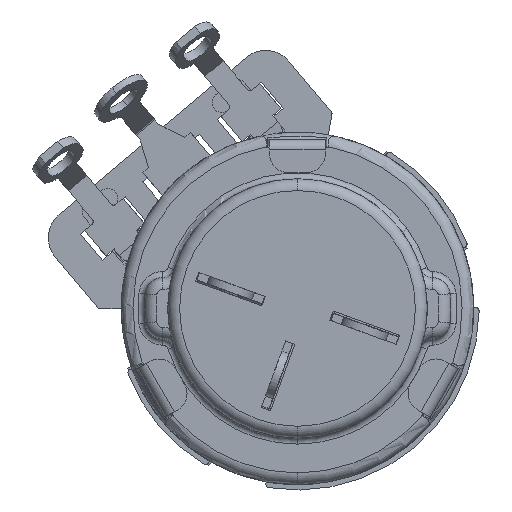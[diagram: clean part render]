
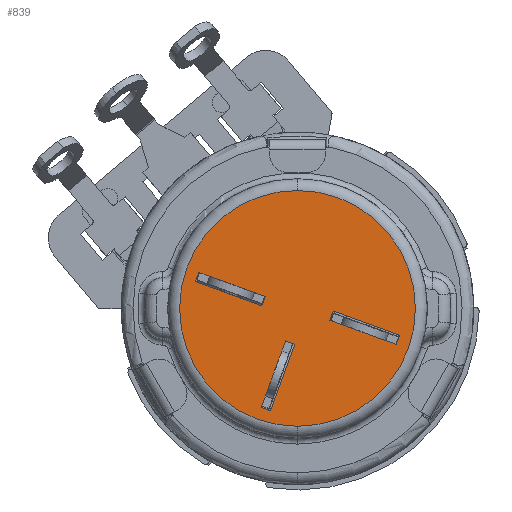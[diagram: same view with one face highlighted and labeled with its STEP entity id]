
A CAD part, front view. The second image highlights one B-rep face of the part: STEP entity #839.
In plain terms, the highlighted planar face has unit normal (0, -1, 0).
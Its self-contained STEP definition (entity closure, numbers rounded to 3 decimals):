
#28 = DIRECTION ( 'NONE',  ( 0., 0., 1. ) ) ;
#219 = DIRECTION ( 'NONE',  ( 0., 1., 0. ) ) ;
#548 = VERTEX_POINT ( 'NONE', #29109 ) ;
#839 = ADVANCED_FACE ( 'NONE', ( #5621, #34447, #26367, #11609 ), #32140, .F. ) ;
#984 = CIRCLE ( 'NONE', #34143, 7.899 ) ;
#1415 = LINE ( 'NONE', #5261, #2730 ) ;
#1590 = CARTESIAN_POINT ( 'NONE',  ( -6.833, 0., 1.798 ) ) ;
#1722 = CARTESIAN_POINT ( 'NONE',  ( -0.795, 0., -2.184 ) ) ;
#1765 = CARTESIAN_POINT ( 'NONE',  ( -2.382, 0., 0.178 ) ) ;
#2010 = DIRECTION ( 'NONE',  ( -0.342, 0., -0.94 ) ) ;
#2252 = ORIENTED_EDGE ( 'NONE', *, *, #12197, .F. ) ;
#2417 = VERTEX_POINT ( 'NONE', #28198 ) ;
#2495 = EDGE_CURVE ( 'NONE', #24596, #13481, #4486, .T. ) ;
#2588 = EDGE_CURVE ( 'NONE', #29493, #8698, #4303, .T. ) ;
#2730 = VECTOR ( 'NONE', #22159, 1000. ) ;
#3667 = CARTESIAN_POINT ( 'NONE',  ( -0.186, 0., -2.405 ) ) ;
#3926 = VERTEX_POINT ( 'NONE', #27676 ) ;
#3942 = LINE ( 'NONE', #7223, #25345 ) ;
#4048 = ORIENTED_EDGE ( 'NONE', *, *, #26642, .T. ) ;
#4117 = CARTESIAN_POINT ( 'NONE',  ( -0.186, 0., -2.405 ) ) ;
#4303 = LINE ( 'NONE', #1590, #30140 ) ;
#4486 = LINE ( 'NONE', #4117, #24005 ) ;
#4679 = DIRECTION ( 'NONE',  ( -0.342, 0., -0.94 ) ) ;
#4845 = LINE ( 'NONE', #33482, #36195 ) ;
#5147 = DIRECTION ( 'NONE',  ( -0.94, 0., 0.342 ) ) ;
#5261 = CARTESIAN_POINT ( 'NONE',  ( -6.611, 0., 2.406 ) ) ;
#5489 = DIRECTION ( 'NONE',  ( 0., -1., 0. ) ) ;
#5621 = FACE_BOUND ( 'NONE', #19280, .T. ) ;
#5723 = LINE ( 'NONE', #17245, #19247 ) ;
#5917 = EDGE_CURVE ( 'NONE', #35331, #35518, #29884, .T. ) ;
#6095 = CARTESIAN_POINT ( 'NONE',  ( -6.833, 0., 1.798 ) ) ;
#7223 = CARTESIAN_POINT ( 'NONE',  ( -1.806, 0., -6.857 ) ) ;
#7900 = CARTESIAN_POINT ( 'NONE',  ( -6.611, 0., 2.406 ) ) ;
#8061 = DIRECTION ( 'NONE',  ( -0.342, 0., -0.94 ) ) ;
#8195 = ORIENTED_EDGE ( 'NONE', *, *, #34695, .F. ) ;
#8402 = DIRECTION ( 'NONE',  ( 0., -1., 0. ) ) ;
#8698 = VERTEX_POINT ( 'NONE', #6095 ) ;
#9560 = ORIENTED_EDGE ( 'NONE', *, *, #24144, .F. ) ;
#9666 = VECTOR ( 'NONE', #2010, 1000. ) ;
#9975 = ORIENTED_EDGE ( 'NONE', *, *, #2588, .F. ) ;
#10815 = EDGE_LOOP ( 'NONE', ( #28215, #34289, #18191, #2252 ) ) ;
#10897 = VECTOR ( 'NONE', #30376, 1000. ) ;
#10966 = CARTESIAN_POINT ( 'NONE',  ( -1.806, 0., -6.857 ) ) ;
#11329 = LINE ( 'NONE', #20522, #31074 ) ;
#11352 = DIRECTION ( 'NONE',  ( 0.342, 0., 0.94 ) ) ;
#11609 = FACE_OUTER_BOUND ( 'NONE', #33565, .T. ) ;
#12197 = EDGE_CURVE ( 'NONE', #548, #31904, #11329, .T. ) ;
#12731 = LINE ( 'NONE', #21700, #10897 ) ;
#13481 = VERTEX_POINT ( 'NONE', #3667 ) ;
#13763 = ORIENTED_EDGE ( 'NONE', *, *, #37527, .F. ) ;
#13926 = CIRCLE ( 'NONE', #28638, 7.899 ) ;
#14313 = AXIS2_PLACEMENT_3D ( 'NONE', #16965, #219, #28 ) ;
#14322 = DIRECTION ( 'NONE',  ( 0., 0., 1. ) ) ;
#15553 = EDGE_CURVE ( 'NONE', #36830, #33828, #27596, .T. ) ;
#16337 = LINE ( 'NONE', #1722, #35198 ) ;
#16691 = CARTESIAN_POINT ( 'NONE',  ( -2.415, 0., -6.635 ) ) ;
#16965 = CARTESIAN_POINT ( 'NONE',  ( 0., 0., 0. ) ) ;
#17245 = CARTESIAN_POINT ( 'NONE',  ( 6.833, 0., -1.798 ) ) ;
#18191 = ORIENTED_EDGE ( 'NONE', *, *, #20649, .F. ) ;
#18515 = DIRECTION ( 'NONE',  ( 0.342, 0., 0.94 ) ) ;
#18522 = EDGE_CURVE ( 'NONE', #35591, #3926, #984, .T. ) ;
#18840 = DIRECTION ( 'NONE',  ( -0.94, 0., 0.342 ) ) ;
#19110 = ORIENTED_EDGE ( 'NONE', *, *, #2495, .F. ) ;
#19208 = CARTESIAN_POINT ( 'NONE',  ( 2.16, 0., -0.786 ) ) ;
#19247 = VECTOR ( 'NONE', #5147, 1000. ) ;
#19280 = EDGE_LOOP ( 'NONE', ( #19110, #28132, #32831, #8195 ) ) ;
#20095 = DIRECTION ( 'NONE',  ( 0., 0., 1. ) ) ;
#20398 = CARTESIAN_POINT ( 'NONE',  ( 6.611, 0., -2.406 ) ) ;
#20522 = CARTESIAN_POINT ( 'NONE',  ( 2.382, 0., -0.178 ) ) ;
#20649 = EDGE_CURVE ( 'NONE', #31904, #32505, #12731, .T. ) ;
#20828 = CARTESIAN_POINT ( 'NONE',  ( -2.16, 0., 0.786 ) ) ;
#21700 = CARTESIAN_POINT ( 'NONE',  ( 2.16, 0., -0.786 ) ) ;
#22159 = DIRECTION ( 'NONE',  ( -0.94, 0., 0.342 ) ) ;
#22207 = EDGE_LOOP ( 'NONE', ( #9975, #13763, #33827, #9560 ) ) ;
#22383 = CARTESIAN_POINT ( 'NONE',  ( -0.795, 0., -2.184 ) ) ;
#22529 = DIRECTION ( 'NONE',  ( 0.342, 0., 0.94 ) ) ;
#22966 = CARTESIAN_POINT ( 'NONE',  ( 0., 0., 0. ) ) ;
#24005 = VECTOR ( 'NONE', #22529, 1000. ) ;
#24144 = EDGE_CURVE ( 'NONE', #8698, #35331, #4845, .T. ) ;
#24596 = VERTEX_POINT ( 'NONE', #10966 ) ;
#25345 = VECTOR ( 'NONE', #33348, 1000. ) ;
#25727 = ORIENTED_EDGE ( 'NONE', *, *, #18522, .T. ) ;
#25920 = LINE ( 'NONE', #37676, #32775 ) ;
#25943 = CARTESIAN_POINT ( 'NONE',  ( -2.16, 0., 0.786 ) ) ;
#26367 = FACE_BOUND ( 'NONE', #10815, .T. ) ;
#26642 = EDGE_CURVE ( 'NONE', #3926, #35591, #13926, .T. ) ;
#27537 = EDGE_CURVE ( 'NONE', #32505, #2417, #25920, .T. ) ;
#27596 = LINE ( 'NONE', #22383, #9666 ) ;
#27676 = CARTESIAN_POINT ( 'NONE',  ( 0., 0., -7.899 ) ) ;
#27688 = DIRECTION ( 'NONE',  ( 0.94, 0., -0.342 ) ) ;
#27803 = EDGE_CURVE ( 'NONE', #2417, #548, #5723, .T. ) ;
#28132 = ORIENTED_EDGE ( 'NONE', *, *, #34367, .F. ) ;
#28198 = CARTESIAN_POINT ( 'NONE',  ( 6.833, 0., -1.798 ) ) ;
#28215 = ORIENTED_EDGE ( 'NONE', *, *, #27803, .F. ) ;
#28638 = AXIS2_PLACEMENT_3D ( 'NONE', #32189, #5489, #14322 ) ;
#29109 = CARTESIAN_POINT ( 'NONE',  ( 2.382, 0., -0.178 ) ) ;
#29493 = VERTEX_POINT ( 'NONE', #7900 ) ;
#29884 = LINE ( 'NONE', #20828, #35826 ) ;
#30140 = VECTOR ( 'NONE', #4679, 1000. ) ;
#30376 = DIRECTION ( 'NONE',  ( 0.94, 0., -0.342 ) ) ;
#31074 = VECTOR ( 'NONE', #8061, 1000. ) ;
#31904 = VERTEX_POINT ( 'NONE', #19208 ) ;
#32140 = PLANE ( 'NONE',  #14313 ) ;
#32189 = CARTESIAN_POINT ( 'NONE',  ( 0., 0., 0. ) ) ;
#32505 = VERTEX_POINT ( 'NONE', #20398 ) ;
#32775 = VECTOR ( 'NONE', #11352, 1000. ) ;
#32831 = ORIENTED_EDGE ( 'NONE', *, *, #15553, .F. ) ;
#33348 = DIRECTION ( 'NONE',  ( 0.94, 0., -0.342 ) ) ;
#33482 = CARTESIAN_POINT ( 'NONE',  ( -2.382, 0., 0.178 ) ) ;
#33565 = EDGE_LOOP ( 'NONE', ( #25727, #4048 ) ) ;
#33683 = CARTESIAN_POINT ( 'NONE',  ( -0.795, 0., -2.184 ) ) ;
#33827 = ORIENTED_EDGE ( 'NONE', *, *, #5917, .F. ) ;
#33828 = VERTEX_POINT ( 'NONE', #16691 ) ;
#34143 = AXIS2_PLACEMENT_3D ( 'NONE', #22966, #8402, #20095 ) ;
#34289 = ORIENTED_EDGE ( 'NONE', *, *, #27537, .F. ) ;
#34367 = EDGE_CURVE ( 'NONE', #33828, #24596, #3942, .T. ) ;
#34447 = FACE_BOUND ( 'NONE', #22207, .T. ) ;
#34695 = EDGE_CURVE ( 'NONE', #13481, #36830, #16337, .T. ) ;
#35198 = VECTOR ( 'NONE', #18840, 1000. ) ;
#35331 = VERTEX_POINT ( 'NONE', #1765 ) ;
#35518 = VERTEX_POINT ( 'NONE', #25943 ) ;
#35591 = VERTEX_POINT ( 'NONE', #35961 ) ;
#35826 = VECTOR ( 'NONE', #18515, 1000. ) ;
#35961 = CARTESIAN_POINT ( 'NONE',  ( 0., 0., 7.899 ) ) ;
#36195 = VECTOR ( 'NONE', #27688, 1000. ) ;
#36830 = VERTEX_POINT ( 'NONE', #33683 ) ;
#37527 = EDGE_CURVE ( 'NONE', #35518, #29493, #1415, .T. ) ;
#37676 = CARTESIAN_POINT ( 'NONE',  ( 6.611, 0., -2.406 ) ) ;
